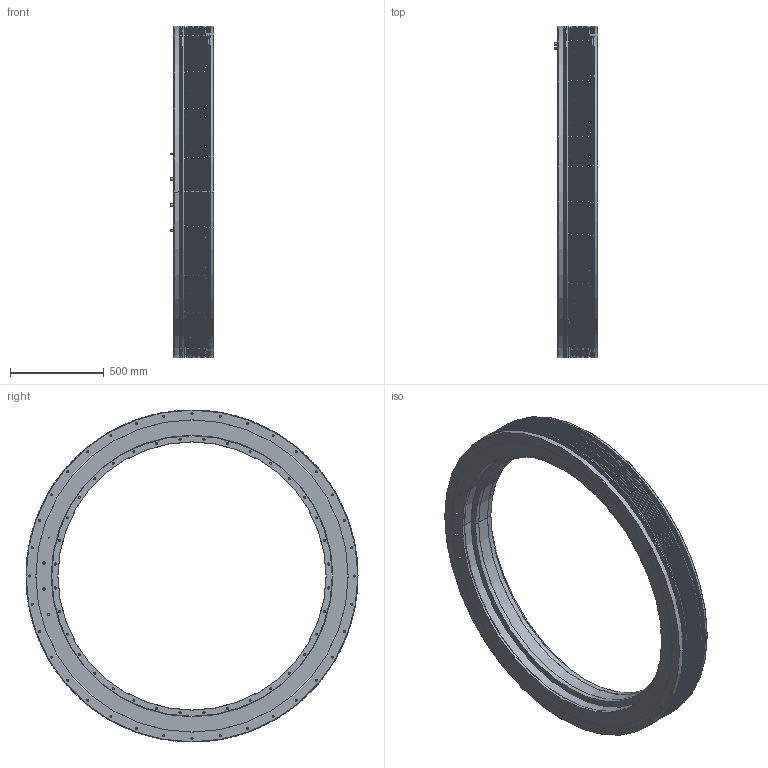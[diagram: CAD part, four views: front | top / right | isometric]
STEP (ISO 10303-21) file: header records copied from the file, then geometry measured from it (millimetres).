
FILE_DESCRIPTION((''),'2;1');
FILE_NAME('TK1700-100','2017-10-30T',('stefanos'),(''),'CREO PARAMETRIC BY PTC INC, 2015480','CREO PARAMETRIC BY PTC INC, 2015480','');
FILE_SCHEMA(('CONFIG_CONTROL_DESIGN'));
Length unit declared in the file: millimetre
Products named in the file (1): TK1700-100
Bounding box: 232 x 1770 x 1770 mm (x, y, z)
Volume: 161211159.9 mm3; surface area: 11807961.5 mm2
Topology: 9 solids, 9 shells, 697 faces, 1610 edges, 842 vertices
Faces by surface type: cylinder 324, cone 304, plane 37, torus 16, revolution 16
Entity records: 19480 total; most frequent: CARTESIAN_POINT 4373, DIRECTION 3474, ORIENTED_EDGE 2788, AXIS2_PLACEMENT_3D 1415, EDGE_CURVE 1394, VERTEX_POINT 842, EDGE_LOOP 842, CIRCLE 734
